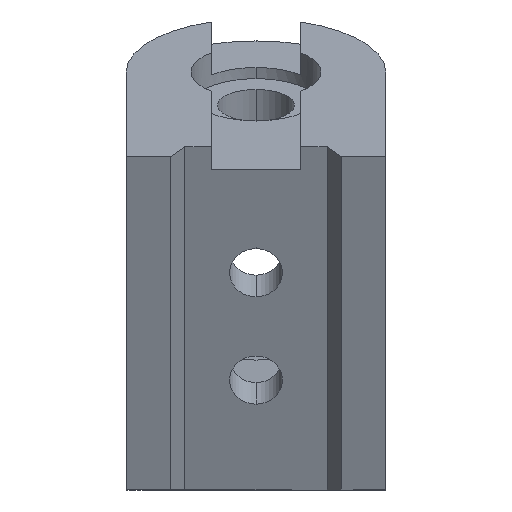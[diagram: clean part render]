
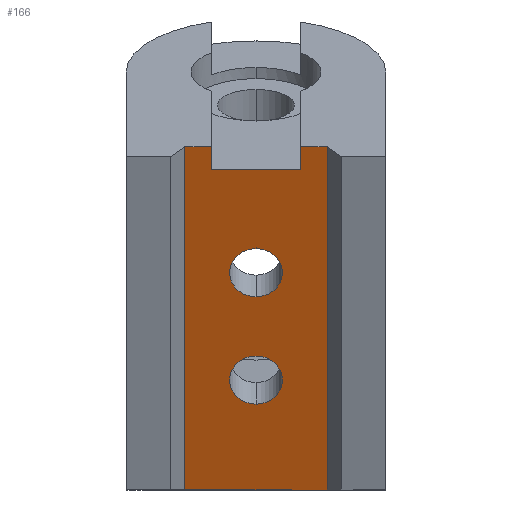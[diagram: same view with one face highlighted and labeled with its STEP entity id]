
A CAD part, front view. The second image highlights one B-rep face of the part: STEP entity #166.
In plain terms, the highlighted planar face has unit normal (0, -0.912, -0.41).
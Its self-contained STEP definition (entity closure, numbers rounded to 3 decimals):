
#166=ADVANCED_FACE('',(#364,#365,#366),#367,.F.);
#364=FACE_BOUND('',#592,.T.);
#365=FACE_BOUND('',#593,.T.);
#366=FACE_OUTER_BOUND('',#594,.T.);
#367=PLANE('',#595);
#592=EDGE_LOOP('',(#1045,#1046));
#593=EDGE_LOOP('',(#1047,#1048));
#594=EDGE_LOOP('',(#1049,#1050,#1051,#1052,#1053,#1054,#1055,#1056));
#595=AXIS2_PLACEMENT_3D('',#1057,#1058,#1059);
#1045=ORIENTED_EDGE('',*,*,#1518,.F.);
#1046=ORIENTED_EDGE('',*,*,#1384,.F.);
#1047=ORIENTED_EDGE('',*,*,#1519,.F.);
#1048=ORIENTED_EDGE('',*,*,#1389,.F.);
#1049=ORIENTED_EDGE('',*,*,#1475,.T.);
#1050=ORIENTED_EDGE('',*,*,#1520,.T.);
#1051=ORIENTED_EDGE('',*,*,#1434,.T.);
#1052=ORIENTED_EDGE('',*,*,#1514,.F.);
#1053=ORIENTED_EDGE('',*,*,#1511,.F.);
#1054=ORIENTED_EDGE('',*,*,#1516,.F.);
#1055=ORIENTED_EDGE('',*,*,#1448,.T.);
#1056=ORIENTED_EDGE('',*,*,#1521,.F.);
#1057=CARTESIAN_POINT('',(-14.464,29.027,-49.911));
#1058=DIRECTION('',(0.,0.912,0.41));
#1059=DIRECTION('',(0.,-0.41,0.912));
#1384=EDGE_CURVE('',#1666,#1662,#1668,.T.);
#1389=EDGE_CURVE('',#1675,#1671,#1677,.T.);
#1434=EDGE_CURVE('',#1753,#1754,#1755,.T.);
#1448=EDGE_CURVE('',#1778,#1776,#1779,.T.);
#1475=EDGE_CURVE('',#1816,#1814,#1817,.T.);
#1511=EDGE_CURVE('',#1863,#1865,#1866,.T.);
#1514=EDGE_CURVE('',#1865,#1754,#1869,.T.);
#1516=EDGE_CURVE('',#1778,#1863,#1871,.T.);
#1518=EDGE_CURVE('',#1662,#1666,#1873,.T.);
#1519=EDGE_CURVE('',#1671,#1675,#1874,.T.);
#1520=EDGE_CURVE('',#1814,#1753,#1875,.T.);
#1521=EDGE_CURVE('',#1816,#1776,#1876,.T.);
#1662=VERTEX_POINT('',#2035);
#1666=VERTEX_POINT('',#2040);
#1668=CIRCLE('',#2043,6.5);
#1671=VERTEX_POINT('',#2046);
#1675=VERTEX_POINT('',#2051);
#1677=CIRCLE('',#2054,6.5);
#1753=VERTEX_POINT('',#2155);
#1754=VERTEX_POINT('',#2156);
#1755=LINE('',#2157,#2158);
#1776=VERTEX_POINT('',#2187);
#1778=VERTEX_POINT('',#2190);
#1779=LINE('',#2191,#2192);
#1814=VERTEX_POINT('',#2242);
#1816=VERTEX_POINT('',#2245);
#1817=LINE('',#2246,#2247);
#1863=VERTEX_POINT('',#2308);
#1865=VERTEX_POINT('',#2311);
#1866=LINE('',#2312,#2313);
#1869=LINE('',#2317,#2318);
#1871=LINE('',#2320,#2321);
#1873=CIRCLE('',#2323,6.5);
#1874=CIRCLE('',#2324,6.5);
#1875=LINE('',#2325,#2326);
#1876=LINE('',#2327,#2328);
#2035=CARTESIAN_POINT('',(-32.0,-2.937,21.157));
#2040=CARTESIAN_POINT('',(-32.0,-8.269,33.013));
#2043=AXIS2_PLACEMENT_3D('',#2498,#2499,#2500);
#2046=CARTESIAN_POINT('',(-32.0,-14.832,47.605));
#2051=CARTESIAN_POINT('',(-32.0,-20.164,59.461));
#2054=AXIS2_PLACEMENT_3D('',#2506,#2507,#2508);
#2155=CARTESIAN_POINT('',(-14.464,-31.444,84.541));
#2156=CARTESIAN_POINT('',(-21.0,-31.444,84.541));
#2157=CARTESIAN_POINT('',(-14.464,-31.444,84.541));
#2158=VECTOR('',#2567,1000.0);
#2187=CARTESIAN_POINT('',(-49.536,-31.444,84.541));
#2190=CARTESIAN_POINT('',(-43.0,-31.444,84.541));
#2191=CARTESIAN_POINT('',(-14.464,-31.444,84.541));
#2192=VECTOR('',#2583,1000.0);
#2242=CARTESIAN_POINT('',(-14.464,6.579,0.));
#2245=CARTESIAN_POINT('',(-49.536,6.579,0.));
#2246=CARTESIAN_POINT('',(-64.0,6.579,0.));
#2247=VECTOR('',#2618,1000.0);
#2308=CARTESIAN_POINT('',(-43.0,-28.983,79.069));
#2311=CARTESIAN_POINT('',(-21.0,-28.983,79.069));
#2312=CARTESIAN_POINT('',(-21.0,-28.983,79.069));
#2313=VECTOR('',#2662,1000.0);
#2317=CARTESIAN_POINT('',(-21.0,-32.491,86.868));
#2318=VECTOR('',#2664,1000.0);
#2320=CARTESIAN_POINT('',(-43.0,-32.491,86.868));
#2321=VECTOR('',#2665,1000.0);
#2323=AXIS2_PLACEMENT_3D('',#2666,#2667,#2668);
#2324=AXIS2_PLACEMENT_3D('',#2669,#2670,#2671);
#2325=CARTESIAN_POINT('',(-14.464,29.027,-49.911));
#2326=VECTOR('',#2672,1000.0);
#2327=CARTESIAN_POINT('',(-49.536,29.027,-49.911));
#2328=VECTOR('',#2673,1000.0);
#2498=CARTESIAN_POINT('',(-32.0,-5.603,27.085));
#2499=DIRECTION('',(0.,-0.912,-0.41));
#2500=DIRECTION('',(0.0,0.41,-0.912));
#2506=CARTESIAN_POINT('',(-32.0,-17.498,53.533));
#2507=DIRECTION('',(0.,-0.912,-0.41));
#2508=DIRECTION('',(0.0,0.41,-0.912));
#2567=DIRECTION('',(-1.0,0.0,0.));
#2583=DIRECTION('',(-1.0,0.0,0.));
#2618=DIRECTION('',(1.0,0.,0.));
#2662=DIRECTION('',(1.0,0.,0.));
#2664=DIRECTION('',(0.0,-0.41,0.912));
#2665=DIRECTION('',(0.0,0.41,-0.912));
#2666=CARTESIAN_POINT('',(-32.0,-5.603,27.085));
#2667=DIRECTION('',(0.,-0.912,-0.41));
#2668=DIRECTION('',(0.0,0.41,-0.912));
#2669=CARTESIAN_POINT('',(-32.0,-17.498,53.533));
#2670=DIRECTION('',(0.,-0.912,-0.41));
#2671=DIRECTION('',(0.0,0.41,-0.912));
#2672=DIRECTION('',(0.0,-0.41,0.912));
#2673=DIRECTION('',(0.0,-0.41,0.912));
